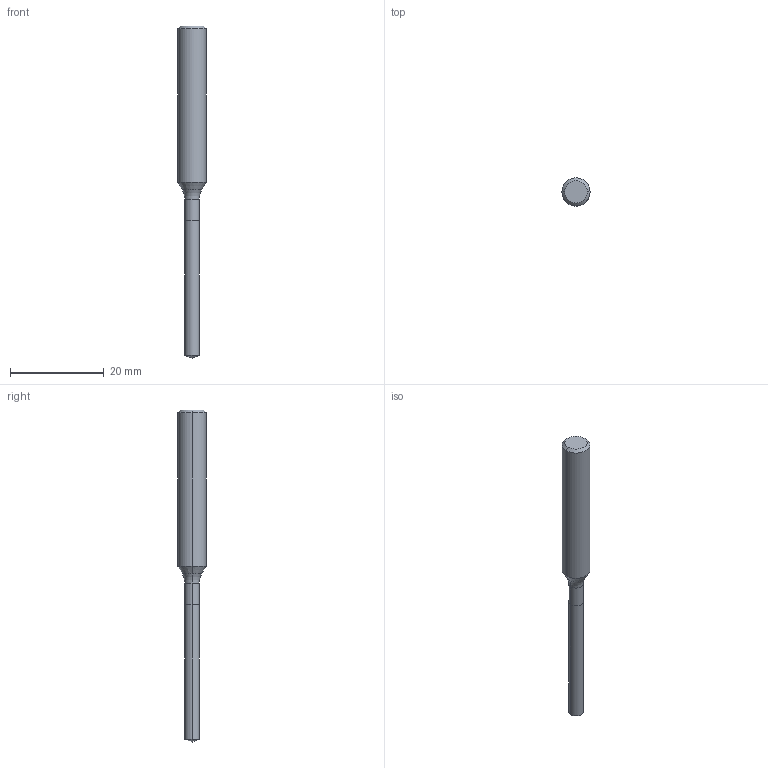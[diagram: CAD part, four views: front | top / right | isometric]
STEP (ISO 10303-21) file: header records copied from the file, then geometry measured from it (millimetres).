
FILE_DESCRIPTION (( 'STEP AP214' ), '1' );
FILE_NAME ('754.031.00_3D-model.step', '2023-08-21T11:35:39', ( '' ), ( '' ), 'SwSTEP 2.0', 'SolidWorks 2020', '' );
FILE_SCHEMA (( 'AUTOMOTIVE_DESIGN' ));
Length unit declared in the file: millimetre
Products named in the file (3): NOCUT-3D^Baugr23; CUT-3D^Baugr23; 754.031.00_3D-model
Assembly tree (2 placements, depth 2):
  754.031.00_3D-model
    CUT-3D^Baugr23
    NOCUT-3D^Baugr23
Bounding box: 6 x 6 x 71 mm (x, y, z)
Volume: 1246.8 mm3; surface area: 1051.8 mm2
Topology: 2 solids, 2 shells, 17 faces, 32 edges, 17 vertices
Faces by surface type: cone 6, cylinder 6, plane 3, torus 2
Entity records: 532 total; most frequent: DIRECTION 98, CARTESIAN_POINT 72, ORIENTED_EDGE 60, AXIS2_PLACEMENT_3D 43, EDGE_CURVE 30, CIRCLE 18, ADVANCED_FACE 17, FACE_OUTER_BOUND 17
